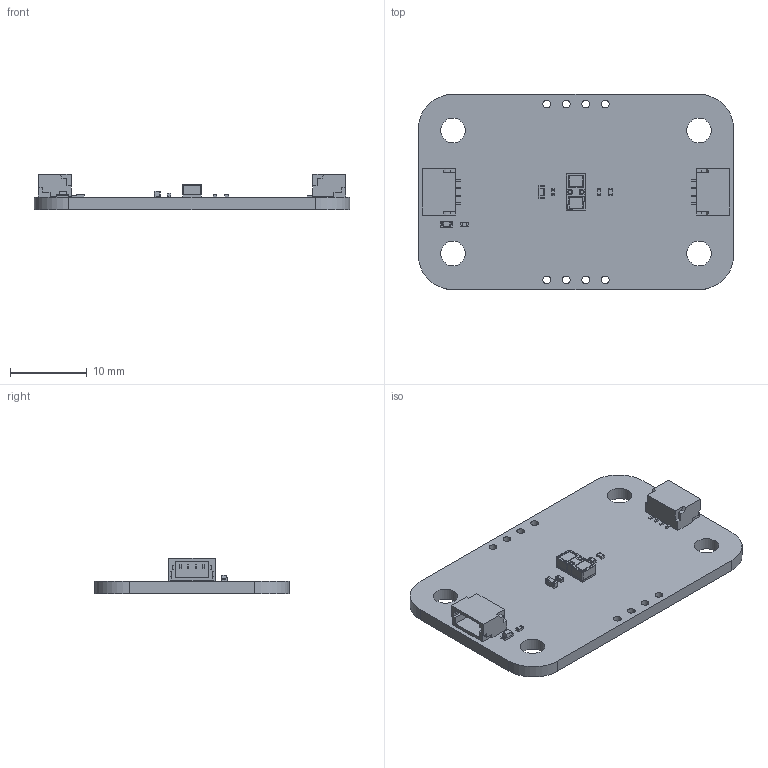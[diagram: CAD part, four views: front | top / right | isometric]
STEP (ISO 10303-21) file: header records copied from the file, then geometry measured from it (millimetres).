
FILE_DESCRIPTION(('Open CASCADE Model'),'2;1');
FILE_NAME('Open CASCADE Shape Model','2024-06-27T16:13:32',('Author'),( 'Open CASCADE'),'Open CASCADE STEP processor 7.5','Open CASCADE 7.5' ,'Unknown');
FILE_SCHEMA(('AUTOMOTIVE_DESIGN { 1 0 10303 214 1 1 1 1 }'));
Length unit declared in the file: millimetre
Products named in the file (18): PCB; Board; Open CASCADE STEP translator 7.5 10.1.1; R3; RES-0402; J1; SM04B-SRSS-TB_RGB12040119; J2; D1; HSMx-190; R1; C2; CAP-0603; U1; vl53l1; R2; C1; CAP-0402
Assembly tree (20 placements, depth 3):
  PCB
    Board
      Open CASCADE STEP translator 7.5 10.1.1
    R3
      RES-0402
    J1
      SM04B-SRSS-TB_RGB12040119
    J2
      SM04B-SRSS-TB_RGB12040119
    D1
      HSMx-190
    R1
      RES-0402
    C2
      CAP-0603
    U1
      vl53l1
    R2
      RES-0402
    C1
      CAP-0402
Bounding box: 41 x 25.36 x 4.58 mm (x, y, z)
Volume: 1689.5 mm3; surface area: 2717.6 mm2
Topology: 25 solids, 25 shells, 718 faces, 1809 edges, 1148 vertices
Faces by surface type: plane 551, cylinder 124, sphere 20, bspline 16, torus 7
Full cylindrical faces by diameter (mm): 0.07 x1, 1 x8, 3.2 x4
Entity records: 17403 total; most frequent: CARTESIAN_POINT 3247, ORIENTED_EDGE 2666, DIRECTION 2652, EDGE_CURVE 1333, LINE 1062, VECTOR 1062, VERTEX_POINT 842, AXIS2_PLACEMENT_3D 795
